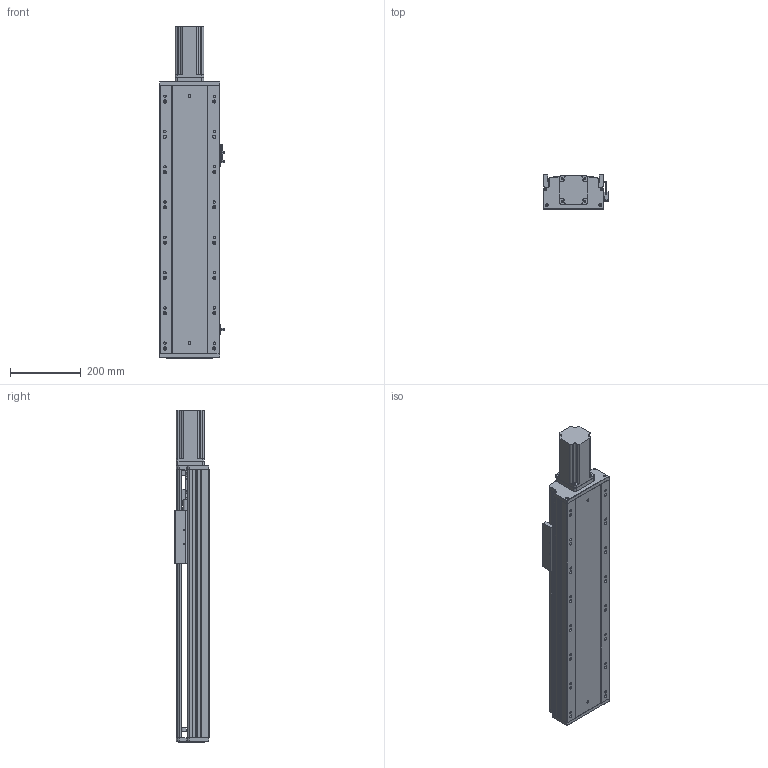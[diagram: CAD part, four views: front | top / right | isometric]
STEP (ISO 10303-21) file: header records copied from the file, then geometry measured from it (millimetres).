
FILE_DESCRIPTION (( 'STEP AP203' ), '1' );
FILE_NAME ('RY170-L2510-300-MK(FK17).SLDASM_450.step', '2022-08-23T02:00:17', ( '' ), ( '' ), 'SwSTEP 2.0', 'SolidWorks 2016', '' );
FILE_SCHEMA (( 'CONFIG_CONTROL_DESIGN' ));
Length unit declared in the file: millimetre
Products named in the file (15): RY170-L2510-300-MK(FK17).SLDASM_450; RY170-300倰第菁釱-MK_450; 侂狟400W侜督萇儂; 750W萇儂梓袧蛌諉啣; 滅袉蝶18-28; RY170外置感应片(200共用）; RY170-300倰第裔啣-MK_450; RY170臏賑輸25佪裝蹟譫; RY170ヶ醱裔啣; 15; 滅袉蝶18-10; RY170电机端支撑座(25丝杆7004轴承)-压铸(FK17); RY170綴裔啣; 侂狟750W萇儂ㄗ80遺ㄘ; 覜茼ん672
Assembly tree (16 placements, depth 3):
  RY170-L2510-300-MK(FK17).SLDASM_450
    RY170-300倰第菁釱-MK_450
    RY170-300倰第裔啣-MK_450
    RY170臏賑輸25佪裝蹟譫
    侂狟400W侜督萇儂
      15
    RY170綴裔啣
    RY170电机端支撑座(25丝杆7004轴承)-压铸(FK17)
    覜茼ん672  x3
    RY170外置感应片(200共用）
    RY170ヶ醱裔啣
    滅袉蝶18-28
    滅袉蝶18-10
    侂狟750W萇儂ㄗ80遺ㄘ
    750W萇儂梓袧蛌諉啣
Bounding box: 183.7 x 97 x 941 mm (x, y, z)
Volume: 5440312.8 mm3; surface area: 1491840.2 mm2
Topology: 15 solids, 15 shells, 2181 faces, 6267 edges, 4018 vertices
Faces by surface type: plane 1014, cylinder 912, cone 219, bspline 36
Entity records: 70887 total; most frequent: CARTESIAN_POINT 16552, ORIENTED_EDGE 11290, DIRECTION 10839, EDGE_CURVE 5645, AXIS2_PLACEMENT_3D 3762, VERTEX_POINT 3698, LINE 3315, VECTOR 3315
